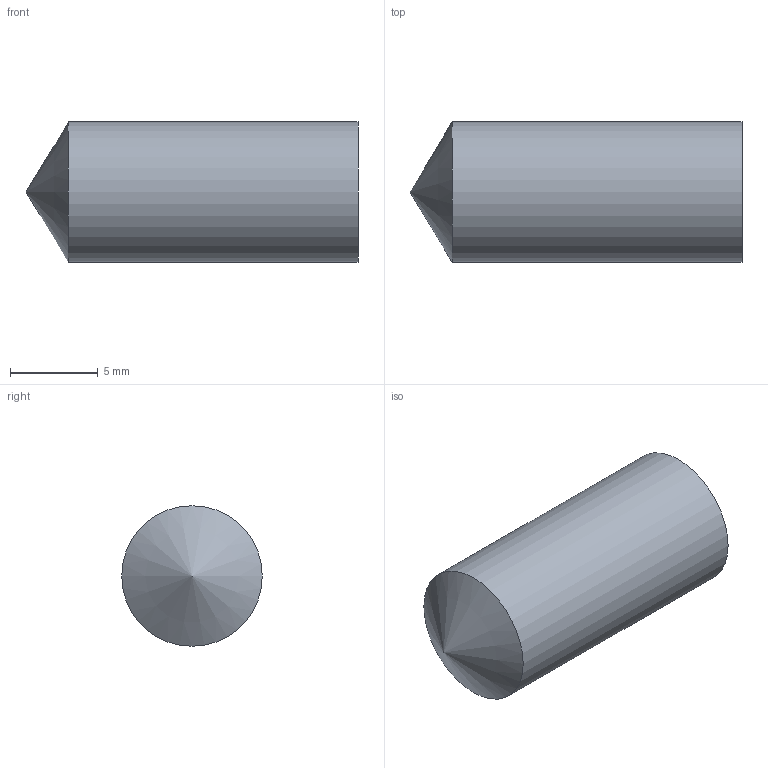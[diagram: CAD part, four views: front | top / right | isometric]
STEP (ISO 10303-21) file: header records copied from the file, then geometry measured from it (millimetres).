
FILE_DESCRIPTION(/* description */ (''),/* implementation_level */ '2;1');
FILE_NAME(/* name */ 'C:\Users\matthiask.LAMELLONET\Desktop\Bohrung_D8x16_5.stp',/* time_stamp */ '2021-07-09T09:05:53+02:00',/* author */ ('matthiask'),/* organization */ (''),/* preprocessor_version */ 'ST-DEVELOPER v18',/* originating_system */ 'Autodesk Inventor 2020',/* authorisation */ '');
FILE_SCHEMA (('AUTOMOTIVE_DESIGN { 1 0 10303 214 3 1 1 }'));
Length unit declared in the file: millimetre
Products named in the file (1): Bohrung D8x16.5
Bounding box: 18.9 x 8 x 8 mm (x, y, z)
Volume: 869.7 mm3; surface area: 523.6 mm2
Topology: 1 solids, 1 shells, 3 faces, 7 edges, 5 vertices
Faces by surface type: cone 1, cylinder 1, plane 1
Full cylindrical faces by diameter (mm): 8 x1
Entity records: 129 total; most frequent: DIRECTION 18, CARTESIAN_POINT 15, ORIENTED_EDGE 12, AXIS2_PLACEMENT_3D 8, EDGE_CURVE 6, VERTEX_POINT 5, CIRCLE 4, FACE_OUTER_BOUND 3
